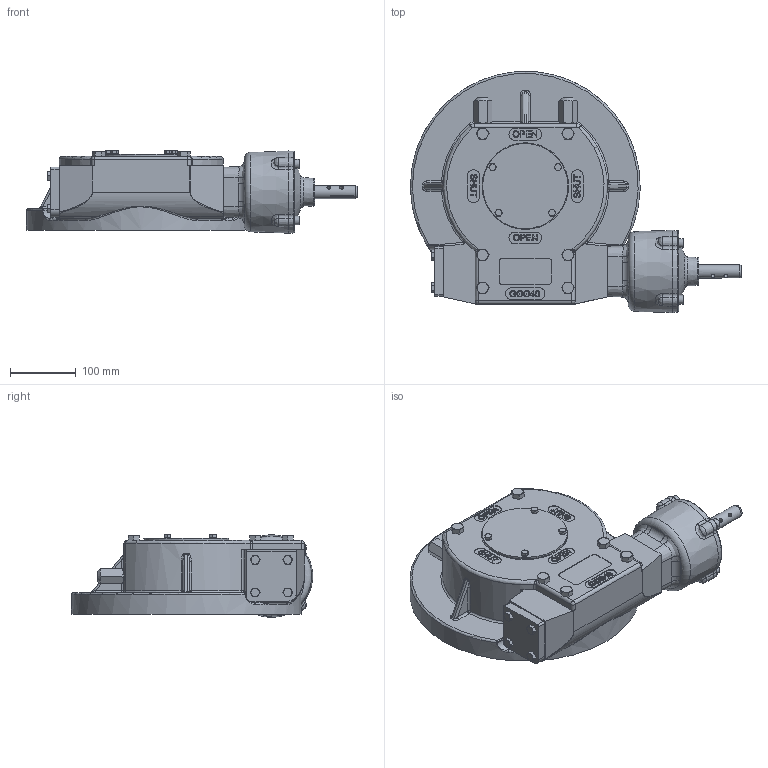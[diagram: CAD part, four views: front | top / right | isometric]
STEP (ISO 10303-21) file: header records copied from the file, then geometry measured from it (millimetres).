
FILE_DESCRIPTION( ( 'Unknown' ), '1' );
FILE_NAME( 'M:/Current Drawings/Internet datasheets/4 - STEP/AB1950G-PR4 BU LB LH.stp', 'Unknown', ( 'Unknown' ), ( 'Unknown' ), 'PSStep 15.0.49', 'Unknown', ' ' );
FILE_SCHEMA( ( 'AUTOMOTIVE_DESIGN { 1 0 10303 214 1 1 1 1 }' ) );
Length unit declared in the file: millimetre
Products named in the file (1): 600PAP2528300
Bounding box: 504.5 x 367.69 x 125.69 mm (x, y, z)
Volume: 6477212.6 mm3; surface area: 776770.4 mm2
Topology: 1 solids, 46 shells, 2337 faces, 6099 edges, 3835 vertices
Faces by surface type: plane 784, cylinder 716, cone 377, torus 233, bspline 135, sphere 54, extrusion 38
Full cylindrical faces by diameter (mm): 3.1 x2, 4.917 x10, 6 x6, 6.647 x16, 7 x4, 8 x10, 8.376 x12, 8.5 x4, 9 x8, 10 x10, 11 x6, 13.27 x4, 13.835 x2, 14 x4, 19 x1, 20 x5, 22 x2, 23 x1, 25 x4, 26 x1, 28 x2, 29 x1, 30 x1, 32 x2, 35 x2, 95.75 x2, 99 x2, 100 x4, 102 x1, 104.555 x1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
Entity records: 117773 total; most frequent: CARTESIAN_POINT 45781, ORIENTED_EDGE 11274, DIRECTION 10643, EDGE_CURVE 5637, AXIS2_PLACEMENT_3D 4368, VERTEX_POINT 3713, EDGE_LOOP 2693, FACE_OUTER_BOUND 2505
